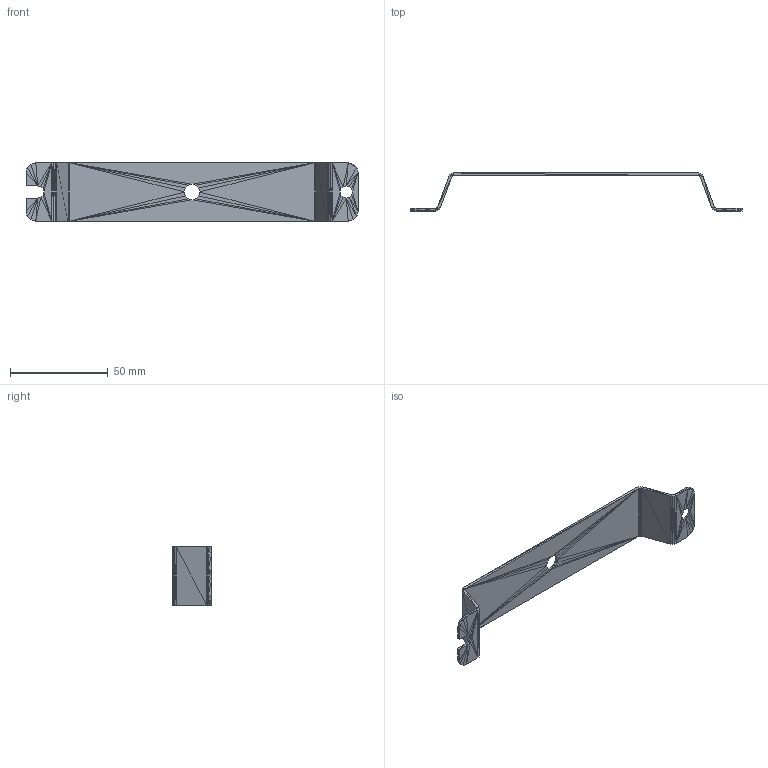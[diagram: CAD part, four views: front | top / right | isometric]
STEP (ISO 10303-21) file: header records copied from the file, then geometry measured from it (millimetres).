
FILE_DESCRIPTION((''),'2;1');
FILE_NAME('051085', '2026-01-28T14:06:50', (''), (''), 'ImageToStl.com STEP Converter','', '');
FILE_SCHEMA(('AUTOMOTIVE_DESIGN_CC2'));
Length unit declared in the file: metre
Products named in the file (1): product0
Bounding box: 170 x 19.5 x 30 mm (x, y, z)
Surface area: 12070.6 mm2 (no closed solid volume)
Topology: 0 solids, 328 shells, 328 faces, 984 edges, 162 vertices
Faces by surface type: plane 328
Entity records: 7568 total; most frequent: DIRECTION 1642, ORIENTED_EDGE 984, EDGE_CURVE 984, LINE 984, VECTOR 984, AXIS2_PLACEMENT_3D 329, FACE_SURFACE 328, PLANE 328
